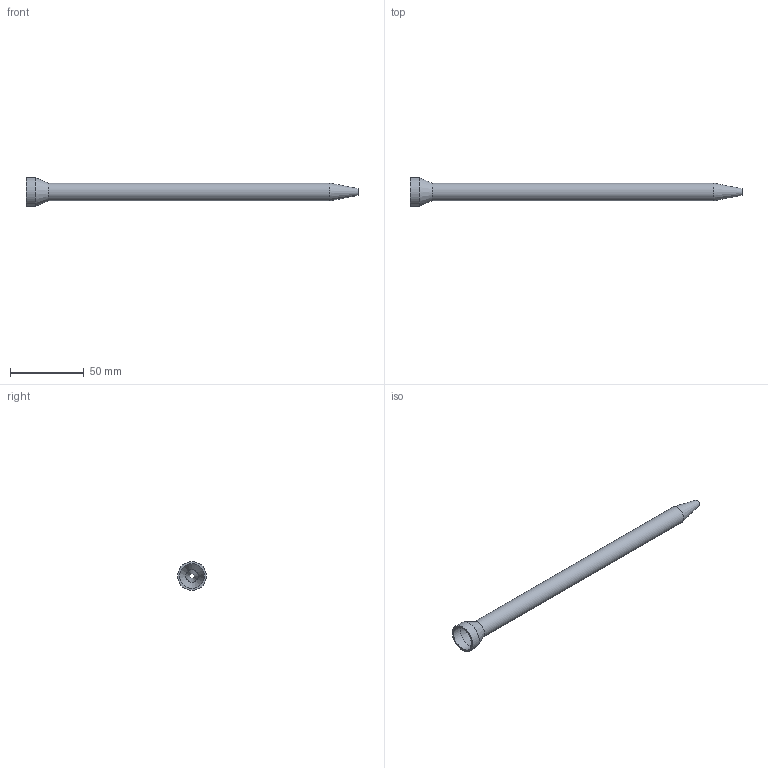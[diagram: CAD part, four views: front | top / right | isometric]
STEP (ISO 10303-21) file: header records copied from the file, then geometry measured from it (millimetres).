
FILE_DESCRIPTION (( 'STEP AP214' ), '1' );
FILE_NAME ('Mixer 8-24T.STEP', '2024-10-11T14:43:43', ( '' ), ( '' ), 'SwSTEP 2.0', 'SolidWorks 2024', '' );
FILE_SCHEMA (( 'AUTOMOTIVE_DESIGN' ));
Length unit declared in the file: millimetre
Products named in the file (1): Mixer 8-24T
Bounding box: 225 x 19.5 x 19.5 mm (x, y, z)
Volume: 12665.5 mm3; surface area: 14736 mm2
Topology: 1 solids, 1 shells, 10 faces, 19 edges, 11 vertices
Faces by surface type: cylinder 4, cone 4, plane 2
Full cylindrical faces by diameter (mm): 8.4 x1, 12 x1, 16.8 x1, 19.5 x1
Entity records: 231 total; most frequent: DIRECTION 42, CARTESIAN_POINT 31, AXIS2_PLACEMENT_3D 21, EDGE_LOOP 20, ORIENTED_EDGE 20, FACE_OUTER_BOUND 14, VERTEX_POINT 10, ADVANCED_FACE 10
